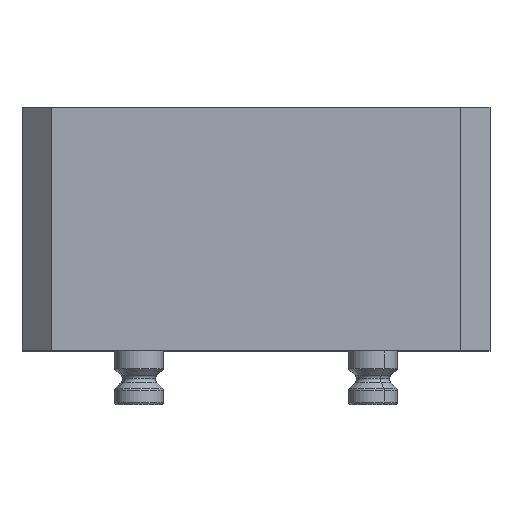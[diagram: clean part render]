
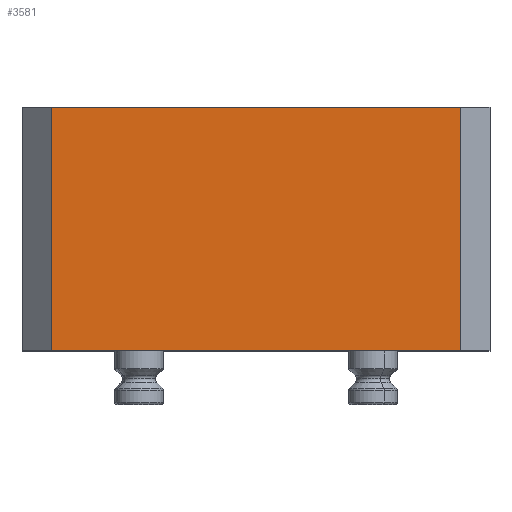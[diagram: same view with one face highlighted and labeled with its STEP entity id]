
A CAD part, top view. The second image highlights one B-rep face of the part: STEP entity #3581.
In plain terms, the highlighted planar face has unit normal (0, 0, 1).
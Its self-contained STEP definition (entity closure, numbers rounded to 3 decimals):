
#205 = ORIENTED_EDGE ( 'NONE', *, *, #3264, .T. ) ;
#231 = ORIENTED_EDGE ( 'NONE', *, *, #3274, .F. ) ;
#2674 = AXIS2_PLACEMENT_3D ( 'NONE', #4743, #4751, #4752 ) ;
#2762 = VECTOR ( 'NONE', #4286, 1000. ) ;
#2764 = VECTOR ( 'NONE', #4283, 1000. ) ;
#2771 = VECTOR ( 'NONE', #3531, 1000. ) ;
#2776 = VECTOR ( 'NONE', #3518, 1000. ) ;
#3264 = EDGE_CURVE ( 'NONE', #6586, #6597, #3516, .T. ) ;
#3268 = EDGE_CURVE ( 'NONE', #6587, #6586, #3521, .T. ) ;
#3273 = EDGE_CURVE ( 'NONE', #6592, #6587, #3535, .T. ) ;
#3274 = EDGE_CURVE ( 'NONE', #6592, #6597, #4284, .T. ) ;
#3516 = LINE ( 'NONE', #3517, #2776 ) ;
#3517 = CARTESIAN_POINT ( 'NONE',  ( 84., 100., 78. ) ) ;
#3518 = DIRECTION ( 'NONE',  ( 0., 1., 0. ) ) ;
#3521 = LINE ( 'NONE', #3522, #2771 ) ;
#3522 = CARTESIAN_POINT ( 'NONE',  ( -96., 0., 78. ) ) ;
#3531 = DIRECTION ( 'NONE',  ( 1., 0., 0. ) ) ;
#3535 = LINE ( 'NONE', #3536, #2764 ) ;
#3536 = CARTESIAN_POINT ( 'NONE',  ( -84., 100., 78. ) ) ;
#3581 = ADVANCED_FACE ( 'NONE', ( #4747 ), #4748, .F. ) ;
#3947 = CARTESIAN_POINT ( 'NONE',  ( 84., 100., 78. ) ) ;
#4283 = DIRECTION ( 'NONE',  ( 0., -1., 0. ) ) ;
#4284 = LINE ( 'NONE', #4285, #2762 ) ;
#4285 = CARTESIAN_POINT ( 'NONE',  ( -96., 100., 78. ) ) ;
#4286 = DIRECTION ( 'NONE',  ( 1., 0., 0. ) ) ;
#4537 = CARTESIAN_POINT ( 'NONE',  ( -84., 100., 78. ) ) ;
#4579 = ORIENTED_EDGE ( 'NONE', *, *, #3268, .T. ) ;
#4585 = ORIENTED_EDGE ( 'NONE', *, *, #3273, .T. ) ;
#4743 = CARTESIAN_POINT ( 'NONE',  ( -96., 100., 78. ) ) ;
#4747 = FACE_OUTER_BOUND ( 'NONE', #6672, .T. ) ;
#4748 = PLANE ( 'NONE',  #2674 ) ;
#4751 = DIRECTION ( 'NONE',  ( 0., 0., -1. ) ) ;
#4752 = DIRECTION ( 'NONE',  ( 0., 1., 0. ) ) ;
#5355 = CARTESIAN_POINT ( 'NONE',  ( 84., 0., 78. ) ) ;
#5356 = CARTESIAN_POINT ( 'NONE',  ( -84., 0., 78. ) ) ;
#6586 = VERTEX_POINT ( 'NONE', #5355 ) ;
#6587 = VERTEX_POINT ( 'NONE', #5356 ) ;
#6592 = VERTEX_POINT ( 'NONE', #4537 ) ;
#6597 = VERTEX_POINT ( 'NONE', #3947 ) ;
#6672 = EDGE_LOOP ( 'NONE', ( #231, #4585, #4579, #205 ) ) ;
